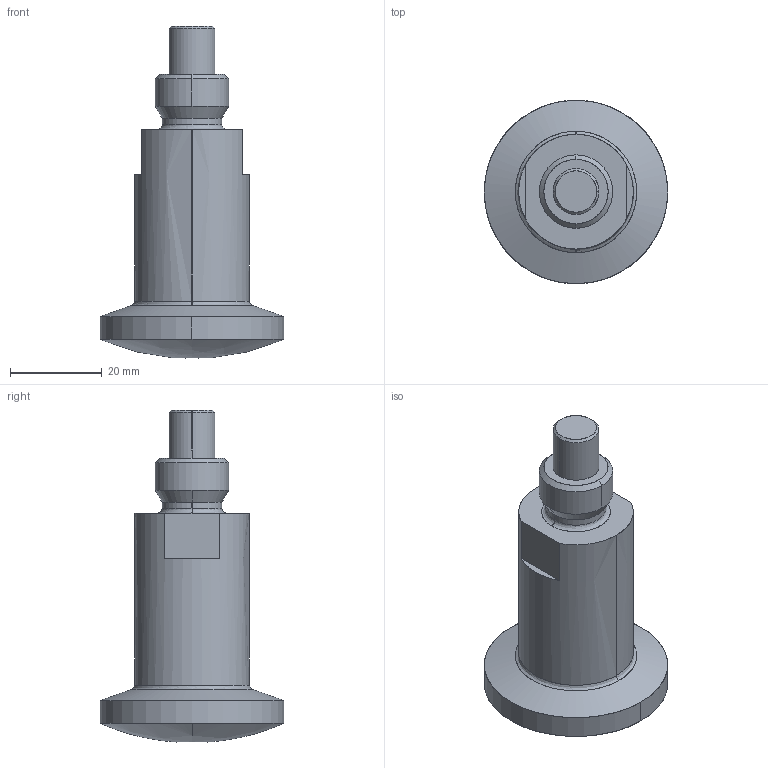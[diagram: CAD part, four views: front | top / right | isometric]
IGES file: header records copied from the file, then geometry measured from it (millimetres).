
Start section: SolidWorks IGES file using analytic representation for surfaces
Global section: file name: C:\Users\M.Jochim\Desktop\GT029311.IGS; native system: SolidWorks 2022; preprocessor: SolidWorks 2022; author: m.jochim; date: 221205.141214; units: millimetre
Bounding box: 40 x 40 x 72.36 mm (x, y, z)
Surface area: 7146.6 mm2 (no closed solid volume)
Topology: 0 solids, 0 shells, 30 faces, 456 edges, 456 vertices
Faces by surface type: revolution 16, bspline 14
